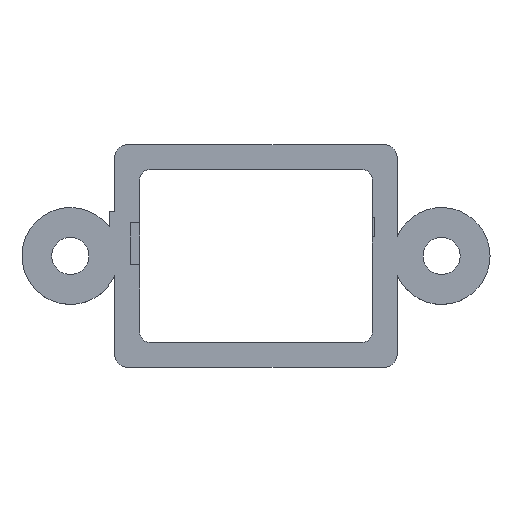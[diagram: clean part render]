
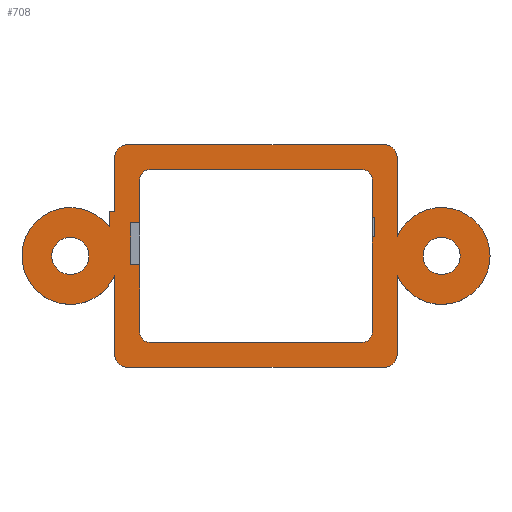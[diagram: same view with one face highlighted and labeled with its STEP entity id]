
A CAD part, top view. The second image highlights one B-rep face of the part: STEP entity #708.
In plain terms, the highlighted planar face has unit normal (0, 0, 1).
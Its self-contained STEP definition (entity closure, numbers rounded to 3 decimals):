
#20=FACE_BOUND('',#94,.T.);
#21=FACE_BOUND('',#95,.T.);
#22=FACE_BOUND('',#96,.T.);
#29=PLANE('',#773);
#52=FACE_OUTER_BOUND('',#93,.T.);
#93=EDGE_LOOP('',(#531,#532,#533,#534,#535,#536,#537,#538,#539,#540,#541,
#542,#543,#544));
#94=EDGE_LOOP('',(#545));
#95=EDGE_LOOP('',(#546,#547,#548,#549,#550,#551,#552,#553,#554,#555,#556,
#557,#558,#559,#560,#561));
#96=EDGE_LOOP('',(#562));
#141=LINE('',#1087,#217);
#145=LINE('',#1095,#221);
#149=LINE('',#1102,#225);
#150=LINE('',#1105,#226);
#154=LINE('',#1112,#230);
#155=LINE('',#1118,#231);
#156=LINE('',#1122,#232);
#157=LINE('',#1126,#233);
#158=LINE('',#1128,#234);
#159=LINE('',#1130,#235);
#160=LINE('',#1134,#236);
#161=LINE('',#1138,#237);
#162=LINE('',#1141,#238);
#163=LINE('',#1147,#239);
#164=LINE('',#1151,#240);
#165=LINE('',#1153,#241);
#166=LINE('',#1155,#242);
#167=LINE('',#1157,#243);
#168=LINE('',#1159,#244);
#169=LINE('',#1163,#245);
#217=VECTOR('',#867,1.);
#221=VECTOR('',#871,1.);
#225=VECTOR('',#877,1.);
#226=VECTOR('',#880,1.);
#230=VECTOR('',#888,1.);
#231=VECTOR('',#893,1.);
#232=VECTOR('',#896,1.);
#233=VECTOR('',#899,1.);
#234=VECTOR('',#900,1.);
#235=VECTOR('',#901,1.);
#236=VECTOR('',#904,1.);
#237=VECTOR('',#907,1.);
#238=VECTOR('',#910,1.);
#239=VECTOR('',#915,1.);
#240=VECTOR('',#918,1.);
#241=VECTOR('',#919,1.);
#242=VECTOR('',#920,1.);
#243=VECTOR('',#921,1.);
#244=VECTOR('',#922,1.);
#245=VECTOR('',#925,1.);
#292=CIRCLE('',#774,3.);
#293=CIRCLE('',#775,0.8);
#294=CIRCLE('',#776,0.8);
#295=CIRCLE('',#777,3.);
#296=CIRCLE('',#778,0.8);
#297=CIRCLE('',#779,0.8);
#298=CIRCLE('',#780,1.15);
#299=CIRCLE('',#781,0.6);
#300=CIRCLE('',#782,0.6);
#301=CIRCLE('',#783,0.6);
#302=CIRCLE('',#784,0.6);
#303=CIRCLE('',#785,1.15);
#332=VERTEX_POINT('',#1084);
#333=VERTEX_POINT('',#1086);
#336=VERTEX_POINT('',#1092);
#337=VERTEX_POINT('',#1094);
#339=VERTEX_POINT('',#1100);
#340=VERTEX_POINT('',#1104);
#342=VERTEX_POINT('',#1114);
#343=VERTEX_POINT('',#1115);
#344=VERTEX_POINT('',#1117);
#345=VERTEX_POINT('',#1119);
#346=VERTEX_POINT('',#1121);
#347=VERTEX_POINT('',#1123);
#348=VERTEX_POINT('',#1125);
#349=VERTEX_POINT('',#1127);
#350=VERTEX_POINT('',#1129);
#351=VERTEX_POINT('',#1131);
#352=VERTEX_POINT('',#1133);
#353=VERTEX_POINT('',#1135);
#354=VERTEX_POINT('',#1137);
#355=VERTEX_POINT('',#1139);
#356=VERTEX_POINT('',#1142);
#357=VERTEX_POINT('',#1144);
#358=VERTEX_POINT('',#1146);
#359=VERTEX_POINT('',#1148);
#360=VERTEX_POINT('',#1150);
#361=VERTEX_POINT('',#1152);
#362=VERTEX_POINT('',#1154);
#363=VERTEX_POINT('',#1156);
#364=VERTEX_POINT('',#1158);
#365=VERTEX_POINT('',#1160);
#366=VERTEX_POINT('',#1162);
#367=VERTEX_POINT('',#1165);
#402=EDGE_CURVE('',#333,#332,#141,.T.);
#406=EDGE_CURVE('',#337,#336,#145,.T.);
#410=EDGE_CURVE('',#336,#339,#149,.T.);
#411=EDGE_CURVE('',#339,#340,#150,.T.);
#415=EDGE_CURVE('',#340,#333,#154,.T.);
#416=EDGE_CURVE('',#342,#343,#292,.T.);
#417=EDGE_CURVE('',#343,#344,#155,.T.);
#418=EDGE_CURVE('',#344,#345,#293,.T.);
#419=EDGE_CURVE('',#346,#345,#156,.T.);
#420=EDGE_CURVE('',#346,#347,#294,.T.);
#421=EDGE_CURVE('',#348,#347,#157,.T.);
#422=EDGE_CURVE('',#348,#349,#158,.T.);
#423=EDGE_CURVE('',#349,#350,#159,.T.);
#424=EDGE_CURVE('',#350,#351,#295,.T.);
#425=EDGE_CURVE('',#352,#351,#160,.T.);
#426=EDGE_CURVE('',#352,#353,#296,.T.);
#427=EDGE_CURVE('',#353,#354,#161,.T.);
#428=EDGE_CURVE('',#354,#355,#297,.T.);
#429=EDGE_CURVE('',#355,#342,#162,.T.);
#430=EDGE_CURVE('',#356,#356,#298,.T.);
#431=EDGE_CURVE('',#332,#357,#299,.T.);
#432=EDGE_CURVE('',#357,#358,#163,.T.);
#433=EDGE_CURVE('',#358,#359,#300,.T.);
#434=EDGE_CURVE('',#359,#360,#164,.T.);
#435=EDGE_CURVE('',#360,#361,#165,.T.);
#436=EDGE_CURVE('',#361,#362,#166,.T.);
#437=EDGE_CURVE('',#362,#363,#167,.T.);
#438=EDGE_CURVE('',#363,#364,#168,.T.);
#439=EDGE_CURVE('',#364,#365,#301,.T.);
#440=EDGE_CURVE('',#366,#365,#169,.T.);
#441=EDGE_CURVE('',#366,#337,#302,.T.);
#442=EDGE_CURVE('',#367,#367,#303,.T.);
#531=ORIENTED_EDGE('',*,*,#416,.T.);
#532=ORIENTED_EDGE('',*,*,#417,.T.);
#533=ORIENTED_EDGE('',*,*,#418,.T.);
#534=ORIENTED_EDGE('',*,*,#419,.F.);
#535=ORIENTED_EDGE('',*,*,#420,.T.);
#536=ORIENTED_EDGE('',*,*,#421,.F.);
#537=ORIENTED_EDGE('',*,*,#422,.T.);
#538=ORIENTED_EDGE('',*,*,#423,.T.);
#539=ORIENTED_EDGE('',*,*,#424,.T.);
#540=ORIENTED_EDGE('',*,*,#425,.F.);
#541=ORIENTED_EDGE('',*,*,#426,.T.);
#542=ORIENTED_EDGE('',*,*,#427,.T.);
#543=ORIENTED_EDGE('',*,*,#428,.T.);
#544=ORIENTED_EDGE('',*,*,#429,.T.);
#545=ORIENTED_EDGE('',*,*,#430,.T.);
#546=ORIENTED_EDGE('',*,*,#415,.T.);
#547=ORIENTED_EDGE('',*,*,#402,.T.);
#548=ORIENTED_EDGE('',*,*,#431,.T.);
#549=ORIENTED_EDGE('',*,*,#432,.T.);
#550=ORIENTED_EDGE('',*,*,#433,.T.);
#551=ORIENTED_EDGE('',*,*,#434,.T.);
#552=ORIENTED_EDGE('',*,*,#435,.T.);
#553=ORIENTED_EDGE('',*,*,#436,.T.);
#554=ORIENTED_EDGE('',*,*,#437,.T.);
#555=ORIENTED_EDGE('',*,*,#438,.T.);
#556=ORIENTED_EDGE('',*,*,#439,.T.);
#557=ORIENTED_EDGE('',*,*,#440,.F.);
#558=ORIENTED_EDGE('',*,*,#441,.T.);
#559=ORIENTED_EDGE('',*,*,#406,.T.);
#560=ORIENTED_EDGE('',*,*,#410,.T.);
#561=ORIENTED_EDGE('',*,*,#411,.T.);
#562=ORIENTED_EDGE('',*,*,#442,.T.);
#708=ADVANCED_FACE('',(#52,#20,#21,#22),#29,.T.);
#773=AXIS2_PLACEMENT_3D('',#1113,#889,#890);
#774=AXIS2_PLACEMENT_3D('',#1116,#891,#892);
#775=AXIS2_PLACEMENT_3D('',#1120,#894,#895);
#776=AXIS2_PLACEMENT_3D('',#1124,#897,#898);
#777=AXIS2_PLACEMENT_3D('',#1132,#902,#903);
#778=AXIS2_PLACEMENT_3D('',#1136,#905,#906);
#779=AXIS2_PLACEMENT_3D('',#1140,#908,#909);
#780=AXIS2_PLACEMENT_3D('',#1143,#911,#912);
#781=AXIS2_PLACEMENT_3D('',#1145,#913,#914);
#782=AXIS2_PLACEMENT_3D('',#1149,#916,#917);
#783=AXIS2_PLACEMENT_3D('',#1161,#923,#924);
#784=AXIS2_PLACEMENT_3D('',#1164,#926,#927);
#785=AXIS2_PLACEMENT_3D('',#1166,#928,#929);
#867=DIRECTION('',(0.,-1.,0.));
#871=DIRECTION('',(0.,-1.,0.));
#877=DIRECTION('',(1.,0.,0.));
#880=DIRECTION('',(0.,-1.,0.));
#888=DIRECTION('',(-1.,0.,0.));
#889=DIRECTION('center_axis',(0.,0.,1.));
#890=DIRECTION('ref_axis',(1.,0.,0.));
#891=DIRECTION('center_axis',(0.,0.,1.));
#892=DIRECTION('ref_axis',(1.,0.,0.));
#893=DIRECTION('',(0.,1.,0.));
#894=DIRECTION('center_axis',(0.,0.,1.));
#895=DIRECTION('ref_axis',(1.,0.,0.));
#896=DIRECTION('',(1.,0.,0.));
#897=DIRECTION('center_axis',(0.,0.,1.));
#898=DIRECTION('ref_axis',(1.,0.,0.));
#899=DIRECTION('',(0.,1.,0.));
#900=DIRECTION('',(-1.,0.,0.));
#901=DIRECTION('',(0.,-1.,0.));
#902=DIRECTION('center_axis',(0.,0.,1.));
#903=DIRECTION('ref_axis',(1.,0.,0.));
#904=DIRECTION('',(0.,1.,0.));
#905=DIRECTION('center_axis',(0.,0.,1.));
#906=DIRECTION('ref_axis',(1.,0.,0.));
#907=DIRECTION('',(1.,0.,0.));
#908=DIRECTION('center_axis',(0.,0.,1.));
#909=DIRECTION('ref_axis',(1.,0.,0.));
#910=DIRECTION('',(0.,1.,0.));
#911=DIRECTION('center_axis',(0.,0.,-1.));
#912=DIRECTION('ref_axis',(1.,0.,0.));
#913=DIRECTION('center_axis',(0.,0.,-1.));
#914=DIRECTION('ref_axis',(1.,0.,0.));
#915=DIRECTION('',(-1.,0.,0.));
#916=DIRECTION('center_axis',(0.,0.,-1.));
#917=DIRECTION('ref_axis',(1.,0.,0.));
#918=DIRECTION('',(0.,1.,0.));
#919=DIRECTION('',(-1.,0.,0.));
#920=DIRECTION('',(0.,1.,0.));
#921=DIRECTION('',(1.,0.,0.));
#922=DIRECTION('',(0.,1.,0.));
#923=DIRECTION('center_axis',(0.,0.,-1.));
#924=DIRECTION('ref_axis',(1.,0.,0.));
#925=DIRECTION('',(-1.,0.,0.));
#926=DIRECTION('center_axis',(0.,0.,-1.));
#927=DIRECTION('ref_axis',(1.,0.,0.));
#928=DIRECTION('center_axis',(0.,0.,-1.));
#929=DIRECTION('ref_axis',(1.,0.,0.));
#1084=CARTESIAN_POINT('',(7.2,-17.988,-5.1));
#1086=CARTESIAN_POINT('',(7.2,-12.06,-5.1));
#1087=CARTESIAN_POINT('',(7.2,-8.488,-5.1));
#1092=CARTESIAN_POINT('',(7.2,-10.86,-5.1));
#1094=CARTESIAN_POINT('',(7.2,-8.488,-5.1));
#1095=CARTESIAN_POINT('',(7.2,-8.488,-5.1));
#1100=CARTESIAN_POINT('',(7.35,-10.86,-5.1));
#1102=CARTESIAN_POINT('',(3.175,-10.86,-5.1));
#1104=CARTESIAN_POINT('',(7.35,-12.06,-5.1));
#1105=CARTESIAN_POINT('',(7.35,-12.349,-5.1));
#1112=CARTESIAN_POINT('',(3.175,-12.06,-5.1));
#1113=CARTESIAN_POINT('Origin',(0.,-13.238,-5.1));
#1114=CARTESIAN_POINT('',(8.75,-14.437,-5.1));
#1115=CARTESIAN_POINT('',(8.75,-12.039,-5.1));
#1116=CARTESIAN_POINT('Origin',(11.5,-13.238,-5.1));
#1117=CARTESIAN_POINT('',(8.75,-7.138,-5.1));
#1118=CARTESIAN_POINT('',(8.75,-13.238,-5.1));
#1119=CARTESIAN_POINT('',(7.95,-6.338,-5.1));
#1120=CARTESIAN_POINT('Origin',(7.95,-7.138,-5.1));
#1121=CARTESIAN_POINT('',(-7.95,-6.338,-5.1));
#1122=CARTESIAN_POINT('',(0.,-6.338,-5.1));
#1123=CARTESIAN_POINT('',(-8.75,-7.138,-5.1));
#1124=CARTESIAN_POINT('Origin',(-7.95,-7.138,-5.1));
#1125=CARTESIAN_POINT('',(-8.75,-10.5,-5.1));
#1126=CARTESIAN_POINT('',(-8.75,-13.238,-5.1));
#1127=CARTESIAN_POINT('',(-9.1,-10.5,-5.1));
#1128=CARTESIAN_POINT('',(-8.92,-10.5,-5.1));
#1129=CARTESIAN_POINT('',(-9.1,-11.438,-5.1));
#1130=CARTESIAN_POINT('',(-9.1,-12.25,-5.1));
#1131=CARTESIAN_POINT('',(-8.75,-14.437,-5.1));
#1132=CARTESIAN_POINT('Origin',(-11.5,-13.238,-5.1));
#1133=CARTESIAN_POINT('',(-8.75,-19.338,-5.1));
#1134=CARTESIAN_POINT('',(-8.75,-13.238,-5.1));
#1135=CARTESIAN_POINT('',(-7.95,-20.138,-5.1));
#1136=CARTESIAN_POINT('Origin',(-7.95,-19.338,-5.1));
#1137=CARTESIAN_POINT('',(7.95,-20.138,-5.1));
#1138=CARTESIAN_POINT('',(0.,-20.138,-5.1));
#1139=CARTESIAN_POINT('',(8.75,-19.338,-5.1));
#1140=CARTESIAN_POINT('Origin',(7.95,-19.338,-5.1));
#1141=CARTESIAN_POINT('',(8.75,-13.238,-5.1));
#1142=CARTESIAN_POINT('',(10.35,-13.238,-5.1));
#1143=CARTESIAN_POINT('Origin',(11.5,-13.238,-5.1));
#1144=CARTESIAN_POINT('',(6.6,-18.588,-5.1));
#1145=CARTESIAN_POINT('Origin',(6.6,-17.988,-5.1));
#1146=CARTESIAN_POINT('',(-6.6,-18.588,-5.1));
#1147=CARTESIAN_POINT('',(-3.3,-18.588,-5.1));
#1148=CARTESIAN_POINT('',(-7.2,-17.988,-5.1));
#1149=CARTESIAN_POINT('Origin',(-6.6,-17.988,-5.1));
#1150=CARTESIAN_POINT('',(-7.2,-13.776,-5.1));
#1151=CARTESIAN_POINT('',(-7.2,-17.988,-5.1));
#1152=CARTESIAN_POINT('',(-7.758,-13.776,-5.1));
#1153=CARTESIAN_POINT('',(-3.429,-13.776,-5.1));
#1154=CARTESIAN_POINT('',(-7.758,-11.176,-5.1));
#1155=CARTESIAN_POINT('',(-7.758,-12.857,-5.1));
#1156=CARTESIAN_POINT('',(-7.2,-11.176,-5.1));
#1157=CARTESIAN_POINT('',(-3.429,-11.176,-5.1));
#1158=CARTESIAN_POINT('',(-7.2,-8.488,-5.1));
#1159=CARTESIAN_POINT('',(-7.2,-17.988,-5.1));
#1160=CARTESIAN_POINT('',(-6.6,-7.888,-5.1));
#1161=CARTESIAN_POINT('Origin',(-6.6,-8.488,-5.1));
#1162=CARTESIAN_POINT('',(6.6,-7.888,-5.1));
#1163=CARTESIAN_POINT('',(-3.3,-7.888,-5.1));
#1164=CARTESIAN_POINT('Origin',(6.6,-8.488,-5.1));
#1165=CARTESIAN_POINT('',(-12.65,-13.238,-5.1));
#1166=CARTESIAN_POINT('Origin',(-11.5,-13.238,-5.1));
